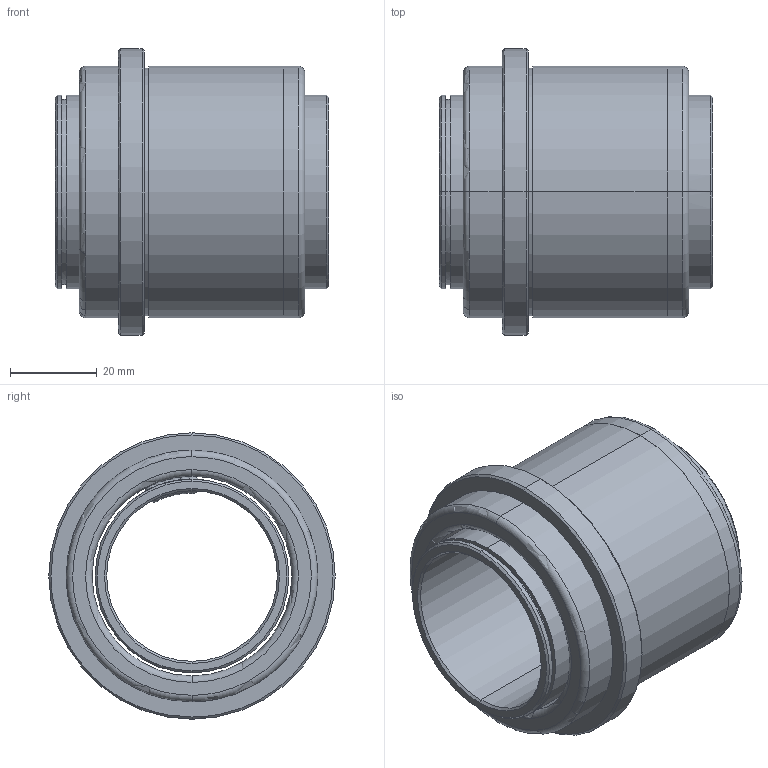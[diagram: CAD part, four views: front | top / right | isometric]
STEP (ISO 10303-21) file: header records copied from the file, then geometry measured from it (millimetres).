
FILE_DESCRIPTION(('CATIA V5 STEP Exchange'),'2;1');
FILE_NAME('C:\Users\Utente\Desktop\IO LAVORO\3D X SITO CF\X SITO\732\732-38.stp','2021-01-10T19:23:23+00:00',('none'),('none'),'CATIA Version 5 Release 20 GA (IN-10)','CATIA V5 STEP AP203','none');
FILE_SCHEMA(('CONFIG_CONTROL_DESIGN'));
Length unit declared in the file: millimetre
Products named in the file (1): 732-38
Assembly tree (2 placements, depth 2):
  732-38
    #58
    #1297
Bounding box: 63 x 66 x 66 mm (x, y, z)
Volume: 77157.4 mm3; surface area: 37752.4 mm2
Topology: 2 solids, 2 shells, 74 faces, 217 edges, 163 vertices
Faces by surface type: sphere 24, cylinder 20, cone 12, plane 10, torus 8
Entity records: 3044 total; most frequent: CARTESIAN_POINT 1054, ORIENTED_EDGE 434, DIRECTION 310, EDGE_CURVE 217, AXIS2_PLACEMENT_3D 198, VERTEX_POINT 163, CIRCLE 120, EDGE_LOOP 94
